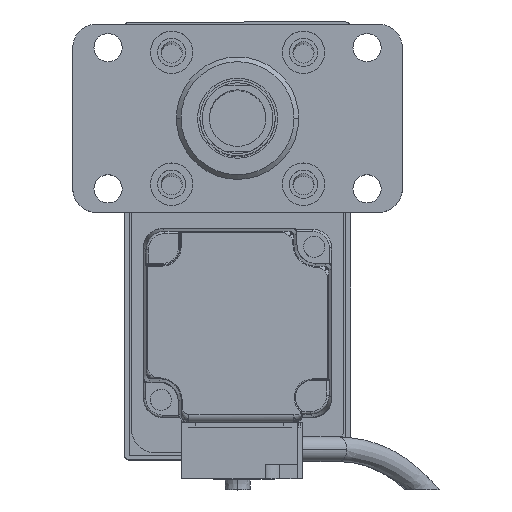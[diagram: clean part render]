
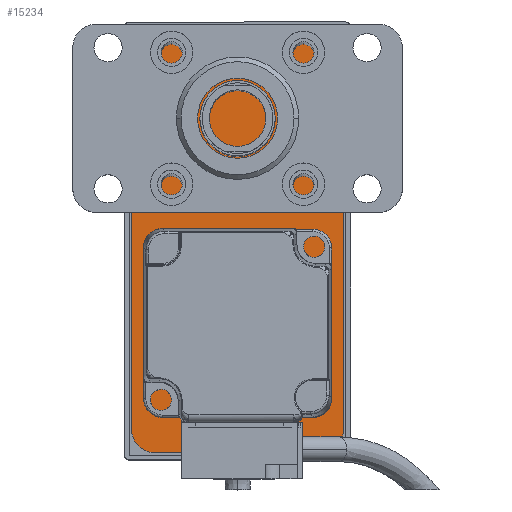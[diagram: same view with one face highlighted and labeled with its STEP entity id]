
A CAD part, top view. The second image highlights one B-rep face of the part: STEP entity #15234.
In plain terms, the highlighted planar face has unit normal (0, 0, 1).
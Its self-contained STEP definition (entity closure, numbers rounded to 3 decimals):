
#309 = VERTEX_POINT ( 'NONE', #1683 ) ;
#329 = EDGE_CURVE ( 'NONE', #17526, #2675, #6788, .T. ) ;
#350 = CIRCLE ( 'NONE', #3898, 5. ) ;
#767 = ORIENTED_EDGE ( 'NONE', *, *, #14049, .T. ) ;
#1056 = CARTESIAN_POINT ( 'NONE',  ( 22.5, -45., 10. ) ) ;
#1683 = CARTESIAN_POINT ( 'NONE',  ( -22.5, -40., 10. ) ) ;
#1780 = ORIENTED_EDGE ( 'NONE', *, *, #16523, .T. ) ;
#2675 = VERTEX_POINT ( 'NONE', #8741 ) ;
#3031 = DIRECTION ( 'NONE',  ( 1., 0., 0. ) ) ;
#3205 = ORIENTED_EDGE ( 'NONE', *, *, #21031, .T. ) ;
#3554 = CARTESIAN_POINT ( 'NONE',  ( 22.5, -40., 10. ) ) ;
#3690 = VECTOR ( 'NONE', #12367, 1000. ) ;
#3898 = AXIS2_PLACEMENT_3D ( 'NONE', #21143, #19122, #21228 ) ;
#3969 = CARTESIAN_POINT ( 'NONE',  ( 22.5, 45., 10. ) ) ;
#4164 = VERTEX_POINT ( 'NONE', #21196 ) ;
#4824 = AXIS2_PLACEMENT_3D ( 'NONE', #22538, #11177, #11333 ) ;
#4925 = CARTESIAN_POINT ( 'NONE',  ( 0., 0., 10. ) ) ;
#4992 = ORIENTED_EDGE ( 'NONE', *, *, #8748, .T. ) ;
#5772 = DIRECTION ( 'NONE',  ( 0., -1., 0. ) ) ;
#6367 = AXIS2_PLACEMENT_3D ( 'NONE', #4925, #7184, #8888 ) ;
#6568 = CARTESIAN_POINT ( 'NONE',  ( -22.5, 40., 10. ) ) ;
#6788 = LINE ( 'NONE', #12972, #11303 ) ;
#7184 = DIRECTION ( 'NONE',  ( 0., 0., 1. ) ) ;
#7249 = AXIS2_PLACEMENT_3D ( 'NONE', #23685, #8290, #21601 ) ;
#7287 = CIRCLE ( 'NONE', #7249, 5. ) ;
#7592 = DIRECTION ( 'NONE',  ( -1., 0., 0. ) ) ;
#7606 = ORIENTED_EDGE ( 'NONE', *, *, #11041, .T. ) ;
#7802 = AXIS2_PLACEMENT_3D ( 'NONE', #12569, #22361, #3031 ) ;
#7910 = LINE ( 'NONE', #1056, #3690 ) ;
#8123 = LINE ( 'NONE', #3969, #10816 ) ;
#8290 = DIRECTION ( 'NONE',  ( 0., 0., 1. ) ) ;
#8741 = CARTESIAN_POINT ( 'NONE',  ( 22.5, 40., 10. ) ) ;
#8748 = EDGE_CURVE ( 'NONE', #16488, #23187, #7910, .T. ) ;
#8888 = DIRECTION ( 'NONE',  ( 1., 0., 0. ) ) ;
#9111 = ORIENTED_EDGE ( 'NONE', *, *, #10309, .T. ) ;
#10309 = EDGE_CURVE ( 'NONE', #4164, #16816, #8123, .T. ) ;
#10816 = VECTOR ( 'NONE', #7592, 1000. ) ;
#11041 = EDGE_CURVE ( 'NONE', #23187, #17526, #7287, .T. ) ;
#11068 = EDGE_LOOP ( 'NONE', ( #17038, #15348, #9111, #767, #1780, #3205, #4992, #7606 ) ) ;
#11088 = CARTESIAN_POINT ( 'NONE',  ( -17.5, -45., 10. ) ) ;
#11177 = DIRECTION ( 'NONE',  ( 0., 0., 1. ) ) ;
#11303 = VECTOR ( 'NONE', #18750, 1000. ) ;
#11333 = DIRECTION ( 'NONE',  ( 1., 0., 0. ) ) ;
#11880 = EDGE_CURVE ( 'NONE', #2675, #4164, #350, .T. ) ;
#12114 = VERTEX_POINT ( 'NONE', #6568 ) ;
#12367 = DIRECTION ( 'NONE',  ( 1., 0., 0. ) ) ;
#12569 = CARTESIAN_POINT ( 'NONE',  ( -17.5, 40., 10. ) ) ;
#12972 = CARTESIAN_POINT ( 'NONE',  ( 22.5, -45., 10. ) ) ;
#14049 = EDGE_CURVE ( 'NONE', #16816, #12114, #23355, .T. ) ;
#14847 = PLANE ( 'NONE',  #6367 ) ;
#15234 = ADVANCED_FACE ( 'NONE', ( #20601 ), #14847, .T. ) ;
#15348 = ORIENTED_EDGE ( 'NONE', *, *, #11880, .T. ) ;
#15499 = LINE ( 'NONE', #19070, #19999 ) ;
#16488 = VERTEX_POINT ( 'NONE', #11088 ) ;
#16523 = EDGE_CURVE ( 'NONE', #12114, #309, #15499, .T. ) ;
#16816 = VERTEX_POINT ( 'NONE', #20489 ) ;
#17038 = ORIENTED_EDGE ( 'NONE', *, *, #329, .T. ) ;
#17526 = VERTEX_POINT ( 'NONE', #3554 ) ;
#18750 = DIRECTION ( 'NONE',  ( 0., 1., 0. ) ) ;
#19070 = CARTESIAN_POINT ( 'NONE',  ( -22.5, -45., 10. ) ) ;
#19122 = DIRECTION ( 'NONE',  ( 0., 0., 1. ) ) ;
#19999 = VECTOR ( 'NONE', #5772, 1000. ) ;
#20489 = CARTESIAN_POINT ( 'NONE',  ( -17.5, 45., 10. ) ) ;
#20601 = FACE_OUTER_BOUND ( 'NONE', #11068, .T. ) ;
#21031 = EDGE_CURVE ( 'NONE', #309, #16488, #24089, .T. ) ;
#21143 = CARTESIAN_POINT ( 'NONE',  ( 17.5, 40., 10. ) ) ;
#21196 = CARTESIAN_POINT ( 'NONE',  ( 17.5, 45., 10. ) ) ;
#21228 = DIRECTION ( 'NONE',  ( 1., 0., 0. ) ) ;
#21601 = DIRECTION ( 'NONE',  ( 1., 0., 0. ) ) ;
#22361 = DIRECTION ( 'NONE',  ( 0., 0., 1. ) ) ;
#22538 = CARTESIAN_POINT ( 'NONE',  ( -17.5, -40., 10. ) ) ;
#23187 = VERTEX_POINT ( 'NONE', #24070 ) ;
#23355 = CIRCLE ( 'NONE', #7802, 5. ) ;
#23685 = CARTESIAN_POINT ( 'NONE',  ( 17.5, -40., 10. ) ) ;
#24070 = CARTESIAN_POINT ( 'NONE',  ( 17.5, -45., 10. ) ) ;
#24089 = CIRCLE ( 'NONE', #4824, 5. ) ;
